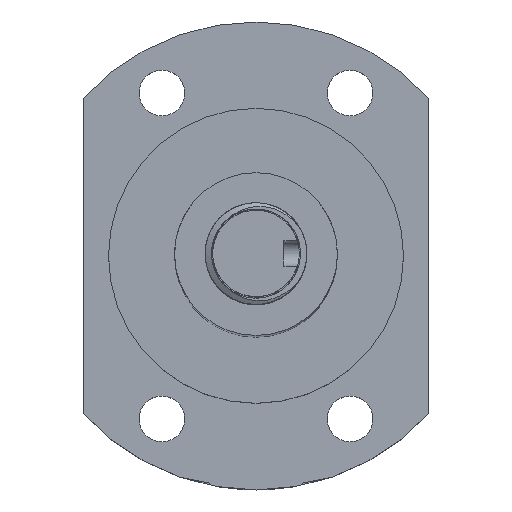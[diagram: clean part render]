
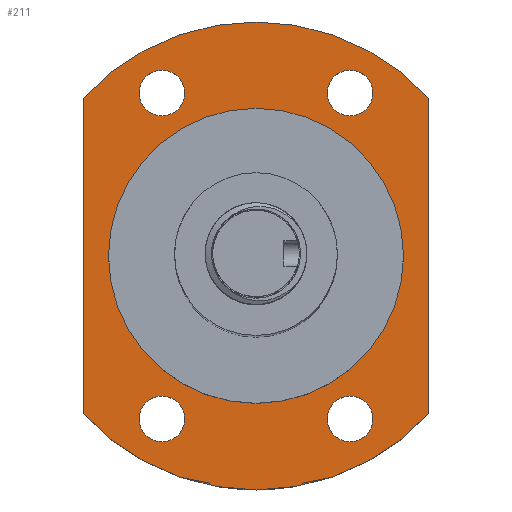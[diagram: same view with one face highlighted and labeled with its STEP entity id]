
A CAD part, top view. The second image highlights one B-rep face of the part: STEP entity #211.
In plain terms, the highlighted planar face has unit normal (0, 0, 1).
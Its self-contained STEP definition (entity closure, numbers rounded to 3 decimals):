
#142=FACE_BOUND('',#373,.T.);
#143=FACE_BOUND('',#374,.T.);
#144=FACE_BOUND('',#375,.T.);
#145=FACE_BOUND('',#376,.T.);
#146=FACE_BOUND('',#377,.T.);
#147=FACE_BOUND('',#378,.T.);
#211=ADVANCED_FACE('',(#142,#143,#144,#145,#146,#147),#267,.T.);
#267=PLANE('',#1167);
#373=EDGE_LOOP('',(#675));
#374=EDGE_LOOP('',(#676));
#375=EDGE_LOOP('',(#677));
#376=EDGE_LOOP('',(#678));
#377=EDGE_LOOP('',(#679));
#378=EDGE_LOOP('',(#680,#681,#682,#683));
#461=LINE('',#3167,#521);
#462=LINE('',#3171,#522);
#521=VECTOR('',#1391,1.);
#522=VECTOR('',#1394,1.);
#675=ORIENTED_EDGE('',*,*,#983,.F.);
#676=ORIENTED_EDGE('',*,*,#984,.F.);
#677=ORIENTED_EDGE('',*,*,#985,.F.);
#678=ORIENTED_EDGE('',*,*,#986,.F.);
#679=ORIENTED_EDGE('',*,*,#987,.T.);
#680=ORIENTED_EDGE('',*,*,#988,.F.);
#681=ORIENTED_EDGE('',*,*,#989,.F.);
#682=ORIENTED_EDGE('',*,*,#990,.F.);
#683=ORIENTED_EDGE('',*,*,#991,.T.);
#873=VERTEX_POINT('',#3155);
#874=VERTEX_POINT('',#3157);
#875=VERTEX_POINT('',#3159);
#876=VERTEX_POINT('',#3161);
#877=VERTEX_POINT('',#3163);
#878=VERTEX_POINT('',#3165);
#879=VERTEX_POINT('',#3166);
#880=VERTEX_POINT('',#3168);
#881=VERTEX_POINT('',#3170);
#983=EDGE_CURVE('',#873,#873,#1073,.T.);
#984=EDGE_CURVE('',#874,#874,#1074,.T.);
#985=EDGE_CURVE('',#875,#875,#1075,.T.);
#986=EDGE_CURVE('',#876,#876,#1076,.T.);
#987=EDGE_CURVE('',#877,#877,#1077,.T.);
#988=EDGE_CURVE('',#878,#879,#1078,.T.);
#989=EDGE_CURVE('',#880,#878,#461,.T.);
#990=EDGE_CURVE('',#881,#880,#1079,.T.);
#991=EDGE_CURVE('',#881,#879,#462,.T.);
#1073=CIRCLE('',#1160,4.5);
#1074=CIRCLE('',#1161,4.5);
#1075=CIRCLE('',#1162,4.5);
#1076=CIRCLE('',#1163,4.5);
#1077=CIRCLE('',#1164,29.);
#1078=CIRCLE('',#1165,46.);
#1079=CIRCLE('',#1166,46.);
#1160=AXIS2_PLACEMENT_3D('',#3154,#1379,#1380);
#1161=AXIS2_PLACEMENT_3D('',#3156,#1381,#1382);
#1162=AXIS2_PLACEMENT_3D('',#3158,#1383,#1384);
#1163=AXIS2_PLACEMENT_3D('',#3160,#1385,#1386);
#1164=AXIS2_PLACEMENT_3D('',#3162,#1387,#1388);
#1165=AXIS2_PLACEMENT_3D('',#3164,#1389,#1390);
#1166=AXIS2_PLACEMENT_3D('',#3169,#1392,#1393);
#1167=AXIS2_PLACEMENT_3D('',#3172,#1395,#1396);
#1379=DIRECTION('',(0.,0.,1.));
#1380=DIRECTION('',(0.,1.,0.));
#1381=DIRECTION('',(0.,0.,1.));
#1382=DIRECTION('',(0.,1.,0.));
#1383=DIRECTION('',(0.,0.,1.));
#1384=DIRECTION('',(0.,1.,0.));
#1385=DIRECTION('',(0.,0.,1.));
#1386=DIRECTION('',(0.,1.,0.));
#1387=DIRECTION('',(0.,0.,-1.));
#1388=DIRECTION('',(0.,1.,0.));
#1389=DIRECTION('',(0.,0.,-1.));
#1390=DIRECTION('',(0.,1.,0.));
#1391=DIRECTION('',(0.,-1.,0.));
#1392=DIRECTION('',(0.,0.,-1.));
#1393=DIRECTION('',(0.,1.,0.));
#1394=DIRECTION('',(0.,-1.,0.));
#1395=DIRECTION('',(0.,0.,1.));
#1396=DIRECTION('',(0.,1.,0.));
#3154=CARTESIAN_POINT('',(-18.5,-32.043,60.));
#3155=CARTESIAN_POINT('',(-18.5,-27.543,60.));
#3156=CARTESIAN_POINT('',(18.5,32.043,60.));
#3157=CARTESIAN_POINT('',(18.5,36.543,60.));
#3158=CARTESIAN_POINT('',(18.5,-32.043,60.));
#3159=CARTESIAN_POINT('',(18.5,-27.543,60.));
#3160=CARTESIAN_POINT('',(-18.5,32.043,60.));
#3161=CARTESIAN_POINT('',(-18.5,36.543,60.));
#3162=CARTESIAN_POINT('',(0.,0.,60.));
#3163=CARTESIAN_POINT('',(0.,29.,60.));
#3164=CARTESIAN_POINT('',(0.,0.,60.));
#3165=CARTESIAN_POINT('',(34.,-30.984,60.));
#3166=CARTESIAN_POINT('',(-34.,-30.984,60.));
#3167=CARTESIAN_POINT('',(34.,0.,60.));
#3168=CARTESIAN_POINT('',(34.,30.984,60.));
#3169=CARTESIAN_POINT('',(0.,0.,60.));
#3170=CARTESIAN_POINT('',(-34.,30.984,60.));
#3171=CARTESIAN_POINT('',(-34.,0.,60.));
#3172=CARTESIAN_POINT('',(0.,0.,60.));
